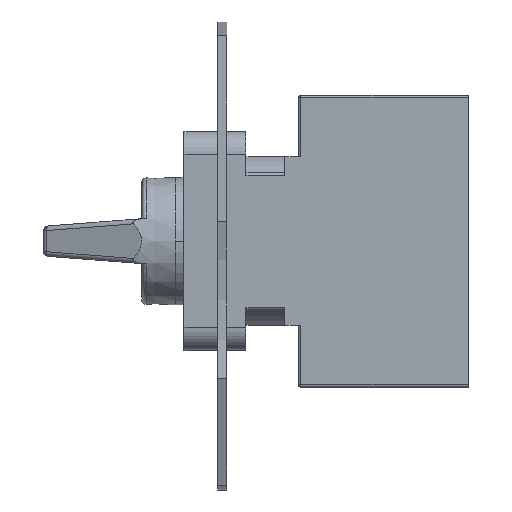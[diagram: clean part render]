
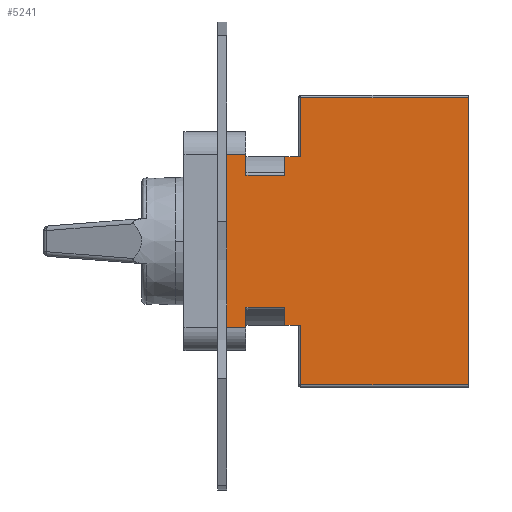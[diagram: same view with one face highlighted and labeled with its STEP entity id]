
A CAD part, left-side view. The second image highlights one B-rep face of the part: STEP entity #5241.
In plain terms, the highlighted planar face has unit normal (-1, 0, 0).
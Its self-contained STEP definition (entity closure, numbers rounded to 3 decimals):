
#3 = VECTOR ( 'NONE', #1538, 1000. ) ;
#76 = VERTEX_POINT ( 'NONE', #4918 ) ;
#119 = VECTOR ( 'NONE', #4394, 1000. ) ;
#177 = EDGE_CURVE ( 'NONE', #3331, #3294, #3945, .T. ) ;
#285 = VERTEX_POINT ( 'NONE', #4295 ) ;
#339 = CARTESIAN_POINT ( 'NONE',  ( -24., 53., -19. ) ) ;
#351 = EDGE_CURVE ( 'NONE', #5945, #285, #2562, .T. ) ;
#362 = VERTEX_POINT ( 'NONE', #5080 ) ;
#372 = CARTESIAN_POINT ( 'NONE',  ( -24., 48.8, -14.5 ) ) ;
#418 = VECTOR ( 'NONE', #1262, 1000. ) ;
#510 = VERTEX_POINT ( 'NONE', #5312 ) ;
#634 = EDGE_CURVE ( 'NONE', #2597, #3939, #3845, .T. ) ;
#641 = CARTESIAN_POINT ( 'NONE',  ( -24., 36.8, 18.5 ) ) ;
#676 = DIRECTION ( 'NONE',  ( 0., 0., -1. ) ) ;
#774 = LINE ( 'NONE', #1354, #3577 ) ;
#825 = VECTOR ( 'NONE', #676, 1000. ) ;
#848 = VECTOR ( 'NONE', #961, 1000. ) ;
#915 = DIRECTION ( 'NONE',  ( 0., -1., 0. ) ) ;
#961 = DIRECTION ( 'NONE',  ( 0., 0., 1. ) ) ;
#1073 = EDGE_CURVE ( 'NONE', #4972, #2900, #2852, .T. ) ;
#1262 = DIRECTION ( 'NONE',  ( 0., 0., -1. ) ) ;
#1294 = EDGE_CURVE ( 'NONE', #362, #5945, #3356, .T. ) ;
#1354 = CARTESIAN_POINT ( 'NONE',  ( -24., 48.8, 0. ) ) ;
#1377 = CARTESIAN_POINT ( 'NONE',  ( -24., 40.3, -14.5 ) ) ;
#1402 = LINE ( 'NONE', #3212, #418 ) ;
#1425 = VERTEX_POINT ( 'NONE', #5888 ) ;
#1489 = EDGE_CURVE ( 'NONE', #3294, #1425, #4999, .T. ) ;
#1492 = VECTOR ( 'NONE', #915, 1000. ) ;
#1538 = DIRECTION ( 'NONE',  ( 0., 1., 0. ) ) ;
#1541 = DIRECTION ( 'NONE',  ( 0., -1., 0. ) ) ;
#1587 = EDGE_CURVE ( 'NONE', #5272, #362, #2329, .T. ) ;
#1639 = EDGE_CURVE ( 'NONE', #4321, #4972, #6034, .T. ) ;
#1846 = LINE ( 'NONE', #5849, #4249 ) ;
#1933 = CARTESIAN_POINT ( 'NONE',  ( -24., 23.024, 31.5 ) ) ;
#1949 = DIRECTION ( 'NONE',  ( 0., 0., 1. ) ) ;
#2014 = EDGE_LOOP ( 'NONE', ( #5252, #4199, #3239, #3653, #3505, #5323, #4544, #4246, #2898, #2357, #4374, #6058, #4978, #5474, #4917, #2949 ) ) ;
#2167 = EDGE_CURVE ( 'NONE', #510, #3331, #5700, .T. ) ;
#2169 = EDGE_CURVE ( 'NONE', #76, #5800, #6216, .T. ) ;
#2212 = CARTESIAN_POINT ( 'NONE',  ( -24., 36.8, 31.5 ) ) ;
#2226 = VECTOR ( 'NONE', #2927, 1000. ) ;
#2329 = LINE ( 'NONE', #5395, #2403 ) ;
#2357 = ORIENTED_EDGE ( 'NONE', *, *, #1639, .T. ) ;
#2403 = VECTOR ( 'NONE', #2868, 1000. ) ;
#2406 = DIRECTION ( 'NONE',  ( 0., 0., 1. ) ) ;
#2424 = DIRECTION ( 'NONE',  ( -1., 0., 0. ) ) ;
#2562 = LINE ( 'NONE', #3479, #3 ) ;
#2593 = CARTESIAN_POINT ( 'NONE',  ( -24., 36.8, 0. ) ) ;
#2597 = VERTEX_POINT ( 'NONE', #4497 ) ;
#2611 = CARTESIAN_POINT ( 'NONE',  ( -24., 48.8, 0. ) ) ;
#2648 = CARTESIAN_POINT ( 'NONE',  ( -24., 23.024, 19. ) ) ;
#2650 = CARTESIAN_POINT ( 'NONE',  ( -24., 36.8, -18.5 ) ) ;
#2728 = CARTESIAN_POINT ( 'NONE',  ( -24., 40.3, 0. ) ) ;
#2734 = CARTESIAN_POINT ( 'NONE',  ( -24., 23.024, -18.5 ) ) ;
#2759 = CARTESIAN_POINT ( 'NONE',  ( -24., 36.8, -31.5 ) ) ;
#2834 = DIRECTION ( 'NONE',  ( 0., -1., 0. ) ) ;
#2852 = LINE ( 'NONE', #6010, #3029 ) ;
#2868 = DIRECTION ( 'NONE',  ( 0., 1., 0. ) ) ;
#2898 = ORIENTED_EDGE ( 'NONE', *, *, #5950, .T. ) ;
#2900 = VERTEX_POINT ( 'NONE', #4180 ) ;
#2927 = DIRECTION ( 'NONE',  ( 0., 1., 0. ) ) ;
#2949 = ORIENTED_EDGE ( 'NONE', *, *, #1294, .T. ) ;
#3029 = VECTOR ( 'NONE', #2834, 1000. ) ;
#3038 = VERTEX_POINT ( 'NONE', #339 ) ;
#3197 = LINE ( 'NONE', #3892, #5743 ) ;
#3212 = CARTESIAN_POINT ( 'NONE',  ( -24., 36.8, 0. ) ) ;
#3239 = ORIENTED_EDGE ( 'NONE', *, *, #2169, .T. ) ;
#3294 = VERTEX_POINT ( 'NONE', #1377 ) ;
#3331 = VERTEX_POINT ( 'NONE', #372 ) ;
#3356 = LINE ( 'NONE', #4581, #825 ) ;
#3388 = CARTESIAN_POINT ( 'NONE',  ( -24., 23.024, -14.5 ) ) ;
#3479 = CARTESIAN_POINT ( 'NONE',  ( -24., 23.024, 14.5 ) ) ;
#3505 = ORIENTED_EDGE ( 'NONE', *, *, #6110, .F. ) ;
#3542 = CARTESIAN_POINT ( 'NONE',  ( -24., 40.3, 14.5 ) ) ;
#3577 = VECTOR ( 'NONE', #4083, 1000. ) ;
#3653 = ORIENTED_EDGE ( 'NONE', *, *, #4198, .T. ) ;
#3750 = CARTESIAN_POINT ( 'NONE',  ( -24., 53., 19. ) ) ;
#3844 = EDGE_CURVE ( 'NONE', #285, #76, #774, .T. ) ;
#3845 = LINE ( 'NONE', #1933, #119 ) ;
#3848 = VECTOR ( 'NONE', #1541, 1000. ) ;
#3892 = CARTESIAN_POINT ( 'NONE',  ( -24., 53., -3.276 ) ) ;
#3939 = VERTEX_POINT ( 'NONE', #2212 ) ;
#3945 = LINE ( 'NONE', #3388, #1492 ) ;
#3962 = LINE ( 'NONE', #6125, #5820 ) ;
#4083 = DIRECTION ( 'NONE',  ( 0., 0., 1. ) ) ;
#4169 = LINE ( 'NONE', #2734, #3848 ) ;
#4180 = CARTESIAN_POINT ( 'NONE',  ( -24., 0., -31.5 ) ) ;
#4198 = EDGE_CURVE ( 'NONE', #5800, #3038, #3197, .T. ) ;
#4199 = ORIENTED_EDGE ( 'NONE', *, *, #3844, .T. ) ;
#4246 = ORIENTED_EDGE ( 'NONE', *, *, #1489, .T. ) ;
#4249 = VECTOR ( 'NONE', #4483, 1000. ) ;
#4287 = FACE_OUTER_BOUND ( 'NONE', #2014, .T. ) ;
#4295 = CARTESIAN_POINT ( 'NONE',  ( -24., 48.8, 14.5 ) ) ;
#4321 = VERTEX_POINT ( 'NONE', #2650 ) ;
#4374 = ORIENTED_EDGE ( 'NONE', *, *, #1073, .T. ) ;
#4394 = DIRECTION ( 'NONE',  ( 0., 1., 0. ) ) ;
#4411 = PLANE ( 'NONE',  #4869 ) ;
#4483 = DIRECTION ( 'NONE',  ( 0., 1., 0. ) ) ;
#4497 = CARTESIAN_POINT ( 'NONE',  ( -24., 0., 31.5 ) ) ;
#4544 = ORIENTED_EDGE ( 'NONE', *, *, #177, .T. ) ;
#4581 = CARTESIAN_POINT ( 'NONE',  ( -24., 40.3, 0. ) ) ;
#4795 = EDGE_CURVE ( 'NONE', #2900, #2597, #3962, .T. ) ;
#4865 = CARTESIAN_POINT ( 'NONE',  ( -24., 23.024, 0. ) ) ;
#4869 = AXIS2_PLACEMENT_3D ( 'NONE', #4865, #2424, #1949 ) ;
#4917 = ORIENTED_EDGE ( 'NONE', *, *, #1587, .T. ) ;
#4918 = CARTESIAN_POINT ( 'NONE',  ( -24., 48.8, 19. ) ) ;
#4972 = VERTEX_POINT ( 'NONE', #2759 ) ;
#4978 = ORIENTED_EDGE ( 'NONE', *, *, #634, .T. ) ;
#4999 = LINE ( 'NONE', #2728, #5342 ) ;
#5023 = DIRECTION ( 'NONE',  ( 0., 0., -1. ) ) ;
#5080 = CARTESIAN_POINT ( 'NONE',  ( -24., 40.3, 18.5 ) ) ;
#5208 = DIRECTION ( 'NONE',  ( 0., 0., -1. ) ) ;
#5227 = VECTOR ( 'NONE', #5023, 1000. ) ;
#5241 = ADVANCED_FACE ( 'NONE', ( #4287 ), #4411, .T. ) ;
#5252 = ORIENTED_EDGE ( 'NONE', *, *, #351, .T. ) ;
#5272 = VERTEX_POINT ( 'NONE', #641 ) ;
#5312 = CARTESIAN_POINT ( 'NONE',  ( -24., 48.8, -19. ) ) ;
#5323 = ORIENTED_EDGE ( 'NONE', *, *, #2167, .T. ) ;
#5342 = VECTOR ( 'NONE', #5208, 1000. ) ;
#5395 = CARTESIAN_POINT ( 'NONE',  ( -24., 23.024, 18.5 ) ) ;
#5474 = ORIENTED_EDGE ( 'NONE', *, *, #5896, .T. ) ;
#5698 = DIRECTION ( 'NONE',  ( 0., 0., -1. ) ) ;
#5700 = LINE ( 'NONE', #2611, #848 ) ;
#5743 = VECTOR ( 'NONE', #5698, 1000. ) ;
#5800 = VERTEX_POINT ( 'NONE', #3750 ) ;
#5820 = VECTOR ( 'NONE', #2406, 1000. ) ;
#5849 = CARTESIAN_POINT ( 'NONE',  ( -24., 35.912, -19. ) ) ;
#5888 = CARTESIAN_POINT ( 'NONE',  ( -24., 40.3, -18.5 ) ) ;
#5896 = EDGE_CURVE ( 'NONE', #3939, #5272, #1402, .T. ) ;
#5945 = VERTEX_POINT ( 'NONE', #3542 ) ;
#5950 = EDGE_CURVE ( 'NONE', #1425, #4321, #4169, .T. ) ;
#6010 = CARTESIAN_POINT ( 'NONE',  ( -24., 23.024, -31.5 ) ) ;
#6034 = LINE ( 'NONE', #2593, #5227 ) ;
#6058 = ORIENTED_EDGE ( 'NONE', *, *, #4795, .T. ) ;
#6110 = EDGE_CURVE ( 'NONE', #510, #3038, #1846, .T. ) ;
#6125 = CARTESIAN_POINT ( 'NONE',  ( -24., 0., 0. ) ) ;
#6216 = LINE ( 'NONE', #2648, #2226 ) ;
